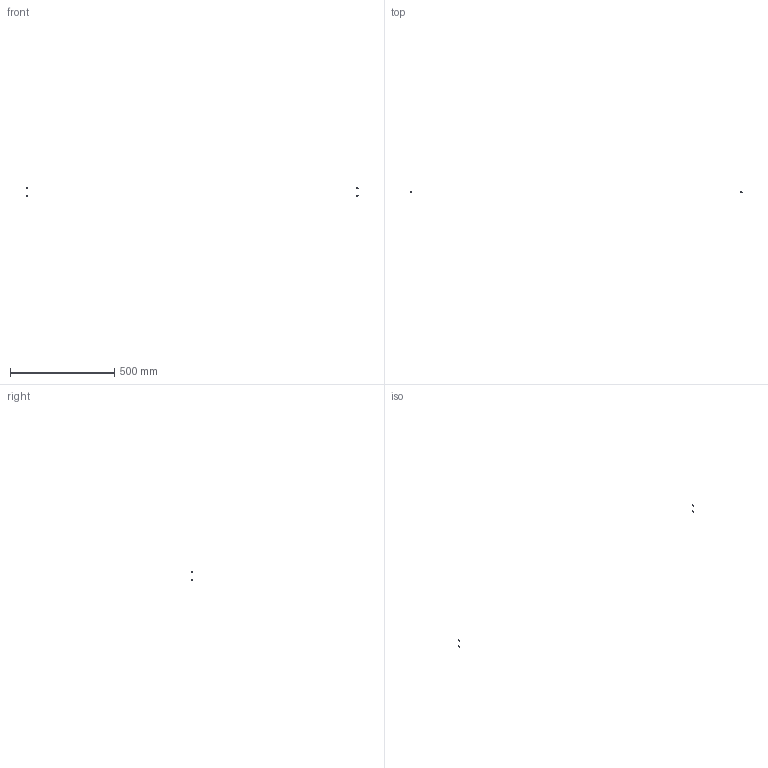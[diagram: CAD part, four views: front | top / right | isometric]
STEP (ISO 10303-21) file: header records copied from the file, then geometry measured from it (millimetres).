
FILE_DESCRIPTION(/* description */ (''),/* implementation_level */ '2;1');
FILE_NAME(/* name */ '3.frame-top#3.3#GTS3',/* time_stamp */ '2014-12-01T20:12:10+01:00',/* author */ (''),/* organization */ (''),/* preprocessor_version */ 'ST-DEVELOPER v14',/* originating_system */ '',/* authorisation */ '');
FILE_SCHEMA (('AUTOMOTIVE_DESIGN'));
Length unit declared in the file: millimetre
Products named in the file (2): Document; washer Schnorr-like, lock, M3
Assembly tree (4 placements, depth 2):
  Document
    washer Schnorr-like, lock, M3  x4
Bounding box: 1595.48 x 7.2 x 42.5 mm (x, y, z)
Surface area: 352.1 mm2 (no closed solid volume)
Topology: 0 solids, 64 shells, 64 faces, 256 edges, 256 vertices
Faces by surface type: bspline 64
Entity records: 3603 total; most frequent: CARTESIAN_POINT 1767, B_SPLINE_CURVE_WITH_KNOTS 240, ORIENTED_EDGE 160, PCURVE 160, DEFINITIONAL_REPRESENTATION 160, SURFACE_CURVE 160, EDGE_CURVE 160, VERTEX_POINT 160
